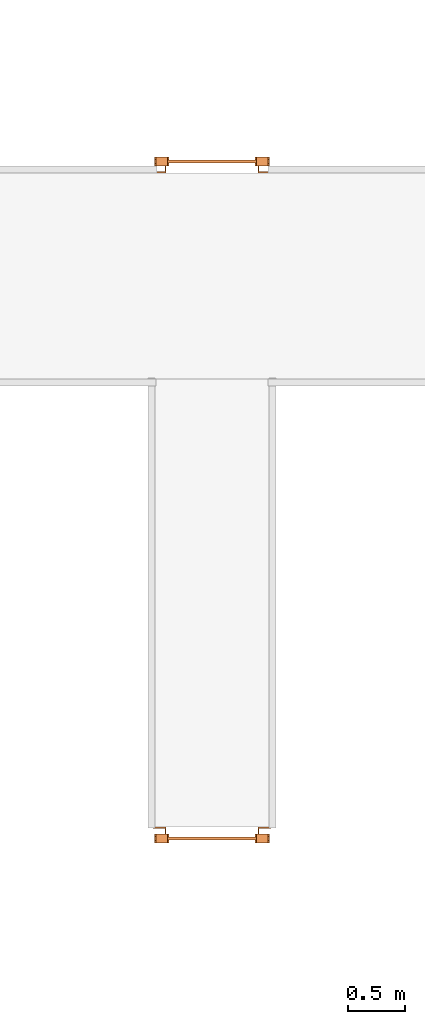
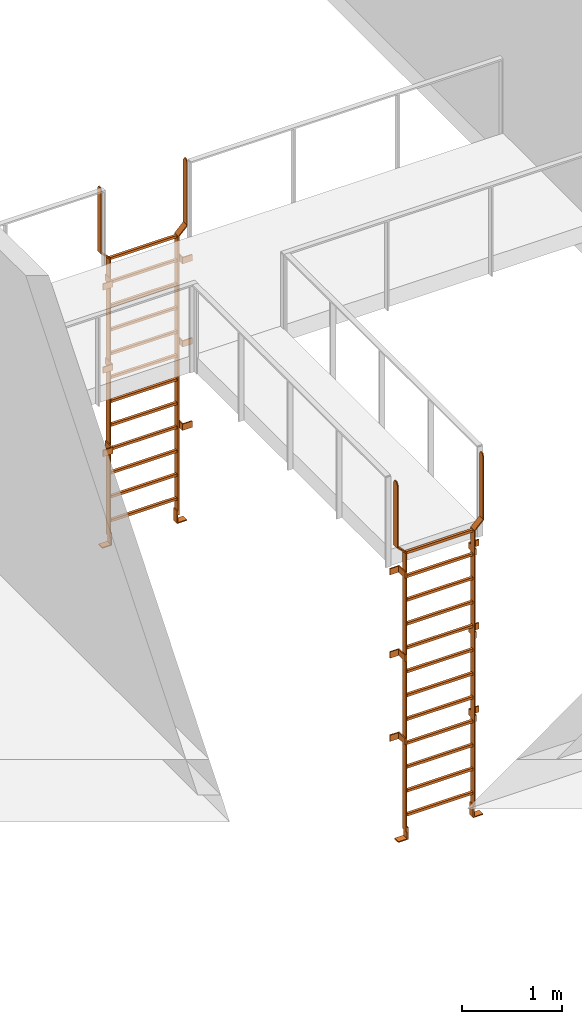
# One storey, part 88 of 89: 2 proxies.
"""IFC2X3 building model written with IfcOpenShell, lengths in millimetres."""

from ifc_helpers import new_model, entity, si_unit, converted_unit, derived_unit, money_unit, direction, frame, origin_with_axes, place, context, subcontext, project, spatial, faceted_brep, type_object, element, save


model = new_model("IFC2X3")

# Units and contexts
model_context = context("Model", 3, precision=0.01, world=origin_with_axes(), true_north=direction((0.0, 1.0)))
body_context = subcontext(model_context, "Body", "Model", "MODEL_VIEW")
ifc_project = project(units=[si_unit("LENGTHUNIT", "METRE", prefix="MILLI"), si_unit("AREAUNIT", "SQUARE_METRE"), si_unit("VOLUMEUNIT", "CUBIC_METRE"), converted_unit("PLANEANGLEUNIT", "DEGREE", entity("IfcPlaneAngleMeasure", 0.0174532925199), si_unit("PLANEANGLEUNIT", "RADIAN"), dimensions=[0, 0, 0, 0, 0, 0, 0]), si_unit("SOLIDANGLEUNIT", "STERADIAN"), money_unit("EUR"), converted_unit("TIMEUNIT", "Year", entity("IfcTimeMeasure", 31556926.0), si_unit("TIMEUNIT", "SECOND"), dimensions=[0, 0, 1, 0, 0, 0, 0]), si_unit("MASSUNIT", "GRAM", prefix="KILO"), si_unit("THERMODYNAMICTEMPERATUREUNIT", "DEGREE_CELSIUS"), si_unit("LUMINOUSINTENSITYUNIT", "LUMEN"), si_unit("ENERGYUNIT", "JOULE", prefix="MEGA"), derived_unit("THERMALCONDUCTANCEUNIT", [(si_unit("POWERUNIT", "WATT"), 1), (si_unit("LENGTHUNIT", "METRE"), -1), (si_unit("THERMODYNAMICTEMPERATUREUNIT", "KELVIN"), -1)]), derived_unit("SPECIFICHEATCAPACITYUNIT", [(si_unit("ENERGYUNIT", "JOULE"), 1), (si_unit("MASSUNIT", "GRAM", prefix="KILO"), -1), (si_unit("THERMODYNAMICTEMPERATUREUNIT", "KELVIN"), -1)]), derived_unit("MASSDENSITYUNIT", [(si_unit("MASSUNIT", "GRAM", prefix="KILO"), 1), (si_unit("VOLUMEUNIT", "CUBIC_METRE"), -1)])], contexts=[model_context])

# Site, building, storey
site_placement = place(None, origin_with_axes())
site = spatial("IfcSite", under=ifc_project, at=site_placement, Name="Puškini 31, Narva", CompositionType="ELEMENT")
building_placement = place(site_placement, origin_with_axes())
building = spatial("IfcBuilding", under=site, at=building_placement, Name="Narva Riigigümnaasium", CompositionType="ELEMENT")
storey_placement = place(building_placement, frame((0.0, 0.0, -3300.0), z_axis=(0.0, 0.0, 1.0), x_axis=(1.0, 0.0, 0.0)))
storey = spatial("IfcBuildingStorey", under=building, at=storey_placement, Name="1.korrus -3.3", CompositionType="ELEMENT", Elevation=-3300.0)

# Proxies
building_element_proxy_type = type_object("IfcBuildingElementProxyType", Name="Vertical Ladder 23", PredefinedType="NOTDEFINED")
proxy_1_placement = place(storey_placement, frame((41100.0043274, 209498.160666, -3500.0), z_axis=(0.0, 0.0, 1.0), x_axis=(1.0, 0.0, 0.0)))
element("IfcBuildingElementProxy", 1, at=proxy_1_placement, inside=storey, type_object=building_element_proxy_type, Name="Redel", context=body_context, shape_type="Brep", body=[
    faceted_brep([(-488.9, -61.9, 12.7), (-488.9, -61.9, 0.0), (-488.9, -138.1, 0.0), (-488.9, -138.1, 12.7), (-387.3, -61.9, 12.7), (-387.3, -61.9, 152.4), (-374.6, -61.9, 152.4), (-374.6, -61.9, 0.0), (-374.6, -138.1, 0.0), (-374.6, -138.1, 152.4), (-387.3, -138.1, 152.4), (-387.3, -138.1, 12.7)], [[[0, 1, 2, 3]], [[0, 4, 5, 6, 7, 1]], [[1, 7, 8, 2]], [[3, 2, 8, 9, 10, 11]], [[4, 0, 3, 11]], [[5, 4, 11, 10]], [[6, 5, 10, 9]], [[7, 6, 9, 8]]]),
    faceted_brep([(488.9, -61.9, 12.7), (488.9, -138.1, 12.7), (488.9, -138.1, 0.0), (488.9, -61.9, 0.0), (387.3, -61.9, 12.7), (387.3, -138.1, 12.7), (387.3, -138.1, 152.4), (374.6, -138.1, 152.4), (374.6, -138.1, 0.0), (374.6, -61.9, 0.0), (374.6, -61.9, 152.4), (387.3, -61.9, 152.4)], [[[0, 1, 2, 3]], [[4, 5, 1, 0]], [[1, 5, 6, 7, 8, 2]], [[3, 2, 8, 9]], [[0, 3, 9, 10, 11, 4]], [[11, 6, 5, 4]], [[10, 7, 6, 11]], [[9, 8, 7, 10]]]),
    faceted_brep([(-412.7, -12.7, 1167.73333333), (-412.7, -138.1, 1167.73333333), (-412.7, -138.1, 1243.93333333), (-412.7, -12.7, 1243.93333333), (-514.3, -12.7, 1167.73333333), (-514.3, 0.0, 1167.73333333), (-400.0, 0.0, 1167.73333333), (-400.0, -138.1, 1167.73333333), (-400.0, -138.1, 1243.93333333), (-400.0, 0.0, 1243.93333333), (-514.3, 0.0, 1243.93333333), (-514.3, -12.7, 1243.93333333)], [[[0, 1, 2, 3]], [[0, 4, 5, 6, 7, 1]], [[1, 7, 8, 2]], [[3, 2, 8, 9, 10, 11]], [[4, 0, 3, 11]], [[5, 4, 11, 10]], [[6, 5, 10, 9]], [[7, 6, 9, 8]]]),
    faceted_brep([(412.7, -12.7, 1167.73333333), (412.7, -12.7, 1243.93333333), (412.7, -138.1, 1243.93333333), (412.7, -138.1, 1167.73333333), (514.3, -12.7, 1167.73333333), (514.3, -12.7, 1243.93333333), (514.3, 0.0, 1243.93333333), (400.0, 0.0, 1243.93333333), (400.0, -138.1, 1243.93333333), (400.0, -138.1, 1167.73333333), (400.0, 0.0, 1167.73333333), (514.3, 0.0, 1167.73333333)], [[[0, 1, 2, 3]], [[4, 5, 1, 0]], [[1, 5, 6, 7, 8, 2]], [[3, 2, 8, 9]], [[0, 3, 9, 10, 11, 4]], [[11, 6, 5, 4]], [[10, 7, 6, 11]], [[9, 8, 7, 10]]]),
    faceted_brep([(-412.7, -12.7, 2183.06666667), (-412.7, -138.1, 2183.06666667), (-412.7, -138.1, 2259.26666667), (-412.7, -12.7, 2259.26666667), (-514.3, -12.7, 2183.06666667), (-514.3, 0.0, 2183.06666667), (-400.0, 0.0, 2183.06666667), (-400.0, -138.1, 2183.06666667), (-400.0, -138.1, 2259.26666667), (-400.0, 0.0, 2259.26666667), (-514.3, 0.0, 2259.26666667), (-514.3, -12.7, 2259.26666667)], [[[0, 1, 2, 3]], [[0, 4, 5, 6, 7, 1]], [[1, 7, 8, 2]], [[3, 2, 8, 9, 10, 11]], [[4, 0, 3, 11]], [[5, 4, 11, 10]], [[6, 5, 10, 9]], [[7, 6, 9, 8]]]),
    faceted_brep([(412.7, -12.7, 2183.06666667), (412.7, -12.7, 2259.26666667), (412.7, -138.1, 2259.26666667), (412.7, -138.1, 2183.06666667), (514.3, -12.7, 2183.06666667), (514.3, -12.7, 2259.26666667), (514.3, 0.0, 2259.26666667), (400.0, 0.0, 2259.26666667), (400.0, -138.1, 2259.26666667), (400.0, -138.1, 2183.06666667), (400.0, 0.0, 2183.06666667), (514.3, 0.0, 2183.06666667)], [[[0, 1, 2, 3]], [[4, 5, 1, 0]], [[1, 5, 6, 7, 8, 2]], [[3, 2, 8, 9]], [[0, 3, 9, 10, 11, 4]], [[11, 6, 5, 4]], [[10, 7, 6, 11]], [[9, 8, 7, 10]]]),
    faceted_brep([(-412.7, -12.7, 3198.4), (-412.7, -138.1, 3198.4), (-412.7, -138.1, 3274.6), (-412.7, -12.7, 3274.6), (-514.3, -12.7, 3198.4), (-514.3, 0.0, 3198.4), (-400.0, 0.0, 3198.4), (-400.0, -138.1, 3198.4), (-400.0, -138.1, 3274.6), (-400.0, 0.0, 3274.6), (-514.3, 0.0, 3274.6), (-514.3, -12.7, 3274.6)], [[[0, 1, 2, 3]], [[0, 4, 5, 6, 7, 1]], [[1, 7, 8, 2]], [[3, 2, 8, 9, 10, 11]], [[4, 0, 3, 11]], [[5, 4, 11, 10]], [[6, 5, 10, 9]], [[7, 6, 9, 8]]]),
    faceted_brep([(412.7, -12.7, 3198.4), (412.7, -12.7, 3274.6), (412.7, -138.1, 3274.6), (412.7, -138.1, 3198.4), (514.3, -12.7, 3198.4), (514.3, -12.7, 3274.6), (514.3, 0.0, 3274.6), (400.0, 0.0, 3274.6), (400.0, -138.1, 3274.6), (400.0, -138.1, 3198.4), (400.0, 0.0, 3198.4), (514.3, 0.0, 3198.4)], [[[0, 1, 2, 3]], [[4, 5, 1, 0]], [[1, 5, 6, 7, 8, 2]], [[3, 2, 8, 9]], [[0, 3, 9, 10, 11, 4]], [[11, 6, 5, 4]], [[10, 7, 6, 11]], [[9, 8, 7, 10]]]),
    faceted_brep([(-387.3, -138.1, 101.6), (-387.3, -61.9, 101.6), (-387.3, -61.9, 3500.0), (-387.3, -138.1, 3500.0), (-400.0, -138.1, 101.6), (-400.0, -61.9, 101.6), (-400.0, -61.9, 3494.73948776), (-501.6, -61.9, 3596.33948776), (-501.6, -61.9, 4361.9), (-488.9, -61.9, 4361.9), (-488.9, -61.9, 3601.6), (-488.9, -138.1, 3601.6), (-488.9, -138.1, 4361.9), (-501.6, -138.1, 4361.9), (-501.6, -138.1, 3596.33948776), (-400.0, -138.1, 3494.73948776)], [[[0, 1, 2, 3]], [[0, 4, 5, 1]], [[1, 5, 6, 7, 8, 9, 10, 2]], [[3, 2, 10, 11]], [[4, 0, 3, 11, 12, 13, 14, 15]], [[5, 4, 15, 6]], [[6, 15, 14, 7]], [[7, 14, 13, 8]], [[12, 9, 8, 13]], [[11, 10, 9, 12]]]),
    faceted_brep([(-501.6, -61.9, 4361.9), (-501.6, -80.95, 4394.89556788), (-488.9, -80.95, 4394.89556788), (-488.9, -61.9, 4361.9), (-501.6, -138.1, 4361.9), (-501.6, -119.05, 4394.89556788), (-488.9, -119.05, 4394.89556788), (-488.9, -138.1, 4361.9)], [[[0, 1, 2, 3]], [[0, 4, 5, 1]], [[1, 5, 6, 2]], [[3, 2, 6, 7]], [[4, 0, 3, 7]], [[5, 4, 7, 6]]]),
    faceted_brep([(387.3, -138.1, 101.6), (387.3, -138.1, 3500.0), (387.3, -61.9, 3500.0), (387.3, -61.9, 101.6), (400.0, -138.1, 101.6), (400.0, -138.1, 3494.73948776), (501.6, -138.1, 3596.33948776), (501.6, -138.1, 4361.9), (488.9, -138.1, 4361.9), (488.9, -138.1, 3601.6), (488.9, -61.9, 3601.6), (488.9, -61.9, 4361.9), (501.6, -61.9, 4361.9), (501.6, -61.9, 3596.33948776), (400.0, -61.9, 3494.73948776), (400.0, -61.9, 101.6)], [[[0, 1, 2, 3]], [[4, 5, 6, 7, 8, 9, 1, 0]], [[1, 9, 10, 2]], [[3, 2, 10, 11, 12, 13, 14, 15]], [[0, 3, 15, 4]], [[15, 14, 5, 4]], [[14, 13, 6, 5]], [[13, 12, 7, 6]], [[8, 7, 12, 11]], [[9, 8, 11, 10]]]),
    faceted_brep([(501.6, -61.9, 4361.9), (488.9, -61.9, 4361.9), (488.9, -80.95, 4394.89556788), (501.6, -80.95, 4394.89556788), (501.6, -138.1, 4361.9), (488.9, -138.1, 4361.9), (488.9, -119.05, 4394.89556788), (501.6, -119.05, 4394.89556788)], [[[0, 1, 2, 3]], [[4, 5, 1, 0]], [[1, 5, 6, 2]], [[3, 2, 6, 7]], [[0, 3, 7, 4]], [[7, 6, 5, 4]]]),
    faceted_brep([(387.3, -115.0, 270.0), (-387.3, -115.0, 270.0), (-387.3, -85.0, 270.0), (387.3, -85.0, 270.0), (387.3, -115.0, 300.0), (-387.3, -115.0, 300.0), (-387.3, -85.0, 300.0), (387.3, -85.0, 300.0)], [[[0, 1, 2, 3]], [[1, 0, 4, 5]], [[2, 1, 5, 6]], [[3, 2, 6, 7]], [[0, 3, 7, 4]], [[5, 4, 7, 6]]]),
    faceted_brep([(387.3, -115.0, 560.909090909), (-387.3, -115.0, 560.909090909), (-387.3, -85.0, 560.909090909), (387.3, -85.0, 560.909090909), (387.3, -115.0, 590.909090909), (-387.3, -115.0, 590.909090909), (-387.3, -85.0, 590.909090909), (387.3, -85.0, 590.909090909)], [[[0, 1, 2, 3]], [[1, 0, 4, 5]], [[2, 1, 5, 6]], [[3, 2, 6, 7]], [[0, 3, 7, 4]], [[5, 4, 7, 6]]]),
    faceted_brep([(387.3, -115.0, 851.818181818), (-387.3, -115.0, 851.818181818), (-387.3, -85.0, 851.818181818), (387.3, -85.0, 851.818181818), (387.3, -115.0, 881.818181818), (-387.3, -115.0, 881.818181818), (-387.3, -85.0, 881.818181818), (387.3, -85.0, 881.818181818)], [[[0, 1, 2, 3]], [[1, 0, 4, 5]], [[2, 1, 5, 6]], [[3, 2, 6, 7]], [[0, 3, 7, 4]], [[5, 4, 7, 6]]]),
    faceted_brep([(387.3, -115.0, 1142.72727273), (-387.3, -115.0, 1142.72727273), (-387.3, -85.0, 1142.72727273), (387.3, -85.0, 1142.72727273), (387.3, -115.0, 1172.72727273), (-387.3, -115.0, 1172.72727273), (-387.3, -85.0, 1172.72727273), (387.3, -85.0, 1172.72727273)], [[[0, 1, 2, 3]], [[1, 0, 4, 5]], [[2, 1, 5, 6]], [[3, 2, 6, 7]], [[0, 3, 7, 4]], [[5, 4, 7, 6]]]),
    faceted_brep([(387.3, -115.0, 1433.63636364), (-387.3, -115.0, 1433.63636364), (-387.3, -85.0, 1433.63636364), (387.3, -85.0, 1433.63636364), (387.3, -115.0, 1463.63636364), (-387.3, -115.0, 1463.63636364), (-387.3, -85.0, 1463.63636364), (387.3, -85.0, 1463.63636364)], [[[0, 1, 2, 3]], [[1, 0, 4, 5]], [[2, 1, 5, 6]], [[3, 2, 6, 7]], [[0, 3, 7, 4]], [[5, 4, 7, 6]]]),
    faceted_brep([(387.3, -115.0, 1724.54545455), (-387.3, -115.0, 1724.54545455), (-387.3, -85.0, 1724.54545455), (387.3, -85.0, 1724.54545455), (387.3, -115.0, 1754.54545455), (-387.3, -115.0, 1754.54545455), (-387.3, -85.0, 1754.54545455), (387.3, -85.0, 1754.54545455)], [[[0, 1, 2, 3]], [[1, 0, 4, 5]], [[2, 1, 5, 6]], [[3, 2, 6, 7]], [[0, 3, 7, 4]], [[5, 4, 7, 6]]]),
    faceted_brep([(387.3, -115.0, 2015.45454545), (-387.3, -115.0, 2015.45454545), (-387.3, -85.0, 2015.45454545), (387.3, -85.0, 2015.45454545), (387.3, -115.0, 2045.45454545), (-387.3, -115.0, 2045.45454545), (-387.3, -85.0, 2045.45454545), (387.3, -85.0, 2045.45454545)], [[[0, 1, 2, 3]], [[1, 0, 4, 5]], [[2, 1, 5, 6]], [[3, 2, 6, 7]], [[0, 3, 7, 4]], [[5, 4, 7, 6]]]),
    faceted_brep([(387.3, -115.0, 2306.36363636), (-387.3, -115.0, 2306.36363636), (-387.3, -85.0, 2306.36363636), (387.3, -85.0, 2306.36363636), (387.3, -115.0, 2336.36363636), (-387.3, -115.0, 2336.36363636), (-387.3, -85.0, 2336.36363636), (387.3, -85.0, 2336.36363636)], [[[0, 1, 2, 3]], [[1, 0, 4, 5]], [[2, 1, 5, 6]], [[3, 2, 6, 7]], [[0, 3, 7, 4]], [[5, 4, 7, 6]]]),
    faceted_brep([(387.3, -115.0, 2597.27272727), (-387.3, -115.0, 2597.27272727), (-387.3, -85.0, 2597.27272727), (387.3, -85.0, 2597.27272727), (387.3, -115.0, 2627.27272727), (-387.3, -115.0, 2627.27272727), (-387.3, -85.0, 2627.27272727), (387.3, -85.0, 2627.27272727)], [[[0, 1, 2, 3]], [[1, 0, 4, 5]], [[2, 1, 5, 6]], [[3, 2, 6, 7]], [[0, 3, 7, 4]], [[5, 4, 7, 6]]]),
    faceted_brep([(387.3, -115.0, 2888.18181818), (-387.3, -115.0, 2888.18181818), (-387.3, -85.0, 2888.18181818), (387.3, -85.0, 2888.18181818), (387.3, -115.0, 2918.18181818), (-387.3, -115.0, 2918.18181818), (-387.3, -85.0, 2918.18181818), (387.3, -85.0, 2918.18181818)], [[[0, 1, 2, 3]], [[1, 0, 4, 5]], [[2, 1, 5, 6]], [[3, 2, 6, 7]], [[0, 3, 7, 4]], [[5, 4, 7, 6]]]),
    faceted_brep([(387.3, -115.0, 3179.09090909), (-387.3, -115.0, 3179.09090909), (-387.3, -85.0, 3179.09090909), (387.3, -85.0, 3179.09090909), (387.3, -115.0, 3209.09090909), (-387.3, -115.0, 3209.09090909), (-387.3, -85.0, 3209.09090909), (387.3, -85.0, 3209.09090909)], [[[0, 1, 2, 3]], [[1, 0, 4, 5]], [[2, 1, 5, 6]], [[3, 2, 6, 7]], [[0, 3, 7, 4]], [[5, 4, 7, 6]]]),
    faceted_brep([(387.3, -115.0, 3470.0), (-387.3, -115.0, 3470.0), (-387.3, -85.0, 3470.0), (387.3, -85.0, 3470.0), (387.3, -115.0, 3500.0), (-387.3, -115.0, 3500.0), (-387.3, -85.0, 3500.0), (387.3, -85.0, 3500.0)], [[[0, 1, 2, 3]], [[1, 0, 4, 5]], [[2, 1, 5, 6]], [[3, 2, 6, 7]], [[0, 3, 7, 4]], [[5, 4, 7, 6]]]),
])
proxy_2_placement = place(storey_placement, frame((41100.0043274, 215215.002185, -3500.0), z_axis=(0.0, 0.0, 1.0), x_axis=(-1.0, 0.0, 0.0)))
element("IfcBuildingElementProxy", 2, at=proxy_2_placement, inside=storey, type_object=building_element_proxy_type, Name="Redel", context=body_context, shape_type="Brep", body=[
    faceted_brep([(488.9, -61.9, 12.7), (488.9, -138.1, 12.7), (488.9, -138.1, 0.0), (488.9, -61.9, 0.0), (387.3, -61.9, 12.7), (387.3, -138.1, 12.7), (387.3, -138.1, 152.4), (374.6, -138.1, 152.4), (374.6, -138.1, 0.0), (374.6, -61.9, 0.0), (374.6, -61.9, 152.4), (387.3, -61.9, 152.4)], [[[0, 1, 2, 3]], [[4, 5, 1, 0]], [[1, 5, 6, 7, 8, 2]], [[3, 2, 8, 9]], [[0, 3, 9, 10, 11, 4]], [[11, 6, 5, 4]], [[10, 7, 6, 11]], [[9, 8, 7, 10]]]),
    faceted_brep([(-488.9, -61.9, 12.7), (-488.9, -61.9, 0.0), (-488.9, -138.1, 0.0), (-488.9, -138.1, 12.7), (-387.3, -61.9, 12.7), (-387.3, -61.9, 152.4), (-374.6, -61.9, 152.4), (-374.6, -61.9, 0.0), (-374.6, -138.1, 0.0), (-374.6, -138.1, 152.4), (-387.3, -138.1, 152.4), (-387.3, -138.1, 12.7)], [[[0, 1, 2, 3]], [[0, 4, 5, 6, 7, 1]], [[1, 7, 8, 2]], [[3, 2, 8, 9, 10, 11]], [[4, 0, 3, 11]], [[5, 4, 11, 10]], [[6, 5, 10, 9]], [[7, 6, 9, 8]]]),
    faceted_brep([(412.7, -12.7, 1167.73333333), (412.7, -12.7, 1243.93333333), (412.7, -138.1, 1243.93333333), (412.7, -138.1, 1167.73333333), (514.3, -12.7, 1167.73333333), (514.3, -12.7, 1243.93333333), (514.3, 0.0, 1243.93333333), (400.0, 0.0, 1243.93333333), (400.0, -138.1, 1243.93333333), (400.0, -138.1, 1167.73333333), (400.0, 0.0, 1167.73333333), (514.3, 0.0, 1167.73333333)], [[[0, 1, 2, 3]], [[4, 5, 1, 0]], [[1, 5, 6, 7, 8, 2]], [[3, 2, 8, 9]], [[0, 3, 9, 10, 11, 4]], [[11, 6, 5, 4]], [[10, 7, 6, 11]], [[9, 8, 7, 10]]]),
    faceted_brep([(-412.7, -12.7, 1167.73333333), (-412.7, -138.1, 1167.73333333), (-412.7, -138.1, 1243.93333333), (-412.7, -12.7, 1243.93333333), (-514.3, -12.7, 1167.73333333), (-514.3, 0.0, 1167.73333333), (-400.0, 0.0, 1167.73333333), (-400.0, -138.1, 1167.73333333), (-400.0, -138.1, 1243.93333333), (-400.0, 0.0, 1243.93333333), (-514.3, 0.0, 1243.93333333), (-514.3, -12.7, 1243.93333333)], [[[0, 1, 2, 3]], [[0, 4, 5, 6, 7, 1]], [[1, 7, 8, 2]], [[3, 2, 8, 9, 10, 11]], [[4, 0, 3, 11]], [[5, 4, 11, 10]], [[6, 5, 10, 9]], [[7, 6, 9, 8]]]),
    faceted_brep([(412.7, -12.7, 2183.06666667), (412.7, -12.7, 2259.26666667), (412.7, -138.1, 2259.26666667), (412.7, -138.1, 2183.06666667), (514.3, -12.7, 2183.06666667), (514.3, -12.7, 2259.26666667), (514.3, 0.0, 2259.26666667), (400.0, 0.0, 2259.26666667), (400.0, -138.1, 2259.26666667), (400.0, -138.1, 2183.06666667), (400.0, 0.0, 2183.06666667), (514.3, 0.0, 2183.06666667)], [[[0, 1, 2, 3]], [[4, 5, 1, 0]], [[1, 5, 6, 7, 8, 2]], [[3, 2, 8, 9]], [[0, 3, 9, 10, 11, 4]], [[11, 6, 5, 4]], [[10, 7, 6, 11]], [[9, 8, 7, 10]]]),
    faceted_brep([(-412.7, -12.7, 2183.06666667), (-412.7, -138.1, 2183.06666667), (-412.7, -138.1, 2259.26666667), (-412.7, -12.7, 2259.26666667), (-514.3, -12.7, 2183.06666667), (-514.3, 0.0, 2183.06666667), (-400.0, 0.0, 2183.06666667), (-400.0, -138.1, 2183.06666667), (-400.0, -138.1, 2259.26666667), (-400.0, 0.0, 2259.26666667), (-514.3, 0.0, 2259.26666667), (-514.3, -12.7, 2259.26666667)], [[[0, 1, 2, 3]], [[0, 4, 5, 6, 7, 1]], [[1, 7, 8, 2]], [[3, 2, 8, 9, 10, 11]], [[4, 0, 3, 11]], [[5, 4, 11, 10]], [[6, 5, 10, 9]], [[7, 6, 9, 8]]]),
    faceted_brep([(412.7, -12.7, 3198.4), (412.7, -12.7, 3274.6), (412.7, -138.1, 3274.6), (412.7, -138.1, 3198.4), (514.3, -12.7, 3198.4), (514.3, -12.7, 3274.6), (514.3, 0.0, 3274.6), (400.0, 0.0, 3274.6), (400.0, -138.1, 3274.6), (400.0, -138.1, 3198.4), (400.0, 0.0, 3198.4), (514.3, 0.0, 3198.4)], [[[0, 1, 2, 3]], [[4, 5, 1, 0]], [[1, 5, 6, 7, 8, 2]], [[3, 2, 8, 9]], [[0, 3, 9, 10, 11, 4]], [[11, 6, 5, 4]], [[10, 7, 6, 11]], [[9, 8, 7, 10]]]),
    faceted_brep([(-412.7, -12.7, 3198.4), (-412.7, -138.1, 3198.4), (-412.7, -138.1, 3274.6), (-412.7, -12.7, 3274.6), (-514.3, -12.7, 3198.4), (-514.3, 0.0, 3198.4), (-400.0, 0.0, 3198.4), (-400.0, -138.1, 3198.4), (-400.0, -138.1, 3274.6), (-400.0, 0.0, 3274.6), (-514.3, 0.0, 3274.6), (-514.3, -12.7, 3274.6)], [[[0, 1, 2, 3]], [[0, 4, 5, 6, 7, 1]], [[1, 7, 8, 2]], [[3, 2, 8, 9, 10, 11]], [[4, 0, 3, 11]], [[5, 4, 11, 10]], [[6, 5, 10, 9]], [[7, 6, 9, 8]]]),
    faceted_brep([(387.3, -138.1, 101.6), (387.3, -138.1, 3500.0), (387.3, -61.9, 3500.0), (387.3, -61.9, 101.6), (400.0, -138.1, 101.6), (400.0, -138.1, 3494.73948776), (501.6, -138.1, 3596.33948776), (501.6, -138.1, 4361.9), (488.9, -138.1, 4361.9), (488.9, -138.1, 3601.6), (488.9, -61.9, 3601.6), (488.9, -61.9, 4361.9), (501.6, -61.9, 4361.9), (501.6, -61.9, 3596.33948776), (400.0, -61.9, 3494.73948776), (400.0, -61.9, 101.6)], [[[0, 1, 2, 3]], [[4, 5, 6, 7, 8, 9, 1, 0]], [[1, 9, 10, 2]], [[3, 2, 10, 11, 12, 13, 14, 15]], [[0, 3, 15, 4]], [[15, 14, 5, 4]], [[14, 13, 6, 5]], [[13, 12, 7, 6]], [[8, 7, 12, 11]], [[9, 8, 11, 10]]]),
    faceted_brep([(501.6, -61.9, 4361.9), (488.9, -61.9, 4361.9), (488.9, -80.95, 4394.89556788), (501.6, -80.95, 4394.89556788), (501.6, -138.1, 4361.9), (488.9, -138.1, 4361.9), (488.9, -119.05, 4394.89556788), (501.6, -119.05, 4394.89556788)], [[[0, 1, 2, 3]], [[4, 5, 1, 0]], [[1, 5, 6, 2]], [[3, 2, 6, 7]], [[0, 3, 7, 4]], [[7, 6, 5, 4]]]),
    faceted_brep([(-387.3, -138.1, 101.6), (-387.3, -61.9, 101.6), (-387.3, -61.9, 3500.0), (-387.3, -138.1, 3500.0), (-400.0, -138.1, 101.6), (-400.0, -61.9, 101.6), (-400.0, -61.9, 3494.73948776), (-501.6, -61.9, 3596.33948776), (-501.6, -61.9, 4361.9), (-488.9, -61.9, 4361.9), (-488.9, -61.9, 3601.6), (-488.9, -138.1, 3601.6), (-488.9, -138.1, 4361.9), (-501.6, -138.1, 4361.9), (-501.6, -138.1, 3596.33948776), (-400.0, -138.1, 3494.73948776)], [[[0, 1, 2, 3]], [[0, 4, 5, 1]], [[1, 5, 6, 7, 8, 9, 10, 2]], [[3, 2, 10, 11]], [[4, 0, 3, 11, 12, 13, 14, 15]], [[5, 4, 15, 6]], [[6, 15, 14, 7]], [[7, 14, 13, 8]], [[12, 9, 8, 13]], [[11, 10, 9, 12]]]),
    faceted_brep([(-501.6, -61.9, 4361.9), (-501.6, -80.95, 4394.89556788), (-488.9, -80.95, 4394.89556788), (-488.9, -61.9, 4361.9), (-501.6, -138.1, 4361.9), (-501.6, -119.05, 4394.89556788), (-488.9, -119.05, 4394.89556788), (-488.9, -138.1, 4361.9)], [[[0, 1, 2, 3]], [[0, 4, 5, 1]], [[1, 5, 6, 2]], [[3, 2, 6, 7]], [[4, 0, 3, 7]], [[5, 4, 7, 6]]]),
    faceted_brep([(-387.3, -115.0, 270.0), (-387.3, -85.0, 270.0), (387.3, -85.0, 270.0), (387.3, -115.0, 270.0), (-387.3, -115.0, 300.0), (-387.3, -85.0, 300.0), (387.3, -85.0, 300.0), (387.3, -115.0, 300.0)], [[[0, 1, 2, 3]], [[0, 4, 5, 1]], [[1, 5, 6, 2]], [[2, 6, 7, 3]], [[3, 7, 4, 0]], [[7, 6, 5, 4]]]),
    faceted_brep([(-387.3, -115.0, 560.909090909), (-387.3, -85.0, 560.909090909), (387.3, -85.0, 560.909090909), (387.3, -115.0, 560.909090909), (-387.3, -115.0, 590.909090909), (-387.3, -85.0, 590.909090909), (387.3, -85.0, 590.909090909), (387.3, -115.0, 590.909090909)], [[[0, 1, 2, 3]], [[0, 4, 5, 1]], [[1, 5, 6, 2]], [[2, 6, 7, 3]], [[3, 7, 4, 0]], [[7, 6, 5, 4]]]),
    faceted_brep([(-387.3, -115.0, 851.818181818), (-387.3, -85.0, 851.818181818), (387.3, -85.0, 851.818181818), (387.3, -115.0, 851.818181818), (-387.3, -115.0, 881.818181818), (-387.3, -85.0, 881.818181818), (387.3, -85.0, 881.818181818), (387.3, -115.0, 881.818181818)], [[[0, 1, 2, 3]], [[0, 4, 5, 1]], [[1, 5, 6, 2]], [[2, 6, 7, 3]], [[3, 7, 4, 0]], [[7, 6, 5, 4]]]),
    faceted_brep([(-387.3, -115.0, 1142.72727273), (-387.3, -85.0, 1142.72727273), (387.3, -85.0, 1142.72727273), (387.3, -115.0, 1142.72727273), (-387.3, -115.0, 1172.72727273), (-387.3, -85.0, 1172.72727273), (387.3, -85.0, 1172.72727273), (387.3, -115.0, 1172.72727273)], [[[0, 1, 2, 3]], [[0, 4, 5, 1]], [[1, 5, 6, 2]], [[2, 6, 7, 3]], [[3, 7, 4, 0]], [[7, 6, 5, 4]]]),
    faceted_brep([(-387.3, -115.0, 1433.63636364), (-387.3, -85.0, 1433.63636364), (387.3, -85.0, 1433.63636364), (387.3, -115.0, 1433.63636364), (-387.3, -115.0, 1463.63636364), (-387.3, -85.0, 1463.63636364), (387.3, -85.0, 1463.63636364), (387.3, -115.0, 1463.63636364)], [[[0, 1, 2, 3]], [[0, 4, 5, 1]], [[1, 5, 6, 2]], [[2, 6, 7, 3]], [[3, 7, 4, 0]], [[7, 6, 5, 4]]]),
    faceted_brep([(-387.3, -115.0, 1724.54545455), (-387.3, -85.0, 1724.54545455), (387.3, -85.0, 1724.54545455), (387.3, -115.0, 1724.54545455), (-387.3, -115.0, 1754.54545455), (-387.3, -85.0, 1754.54545455), (387.3, -85.0, 1754.54545455), (387.3, -115.0, 1754.54545455)], [[[0, 1, 2, 3]], [[0, 4, 5, 1]], [[1, 5, 6, 2]], [[2, 6, 7, 3]], [[3, 7, 4, 0]], [[7, 6, 5, 4]]]),
    faceted_brep([(-387.3, -115.0, 2015.45454545), (-387.3, -85.0, 2015.45454545), (387.3, -85.0, 2015.45454545), (387.3, -115.0, 2015.45454545), (-387.3, -115.0, 2045.45454545), (-387.3, -85.0, 2045.45454545), (387.3, -85.0, 2045.45454545), (387.3, -115.0, 2045.45454545)], [[[0, 1, 2, 3]], [[0, 4, 5, 1]], [[1, 5, 6, 2]], [[2, 6, 7, 3]], [[3, 7, 4, 0]], [[7, 6, 5, 4]]]),
    faceted_brep([(-387.3, -115.0, 2306.36363636), (-387.3, -85.0, 2306.36363636), (387.3, -85.0, 2306.36363636), (387.3, -115.0, 2306.36363636), (-387.3, -115.0, 2336.36363636), (-387.3, -85.0, 2336.36363636), (387.3, -85.0, 2336.36363636), (387.3, -115.0, 2336.36363636)], [[[0, 1, 2, 3]], [[0, 4, 5, 1]], [[1, 5, 6, 2]], [[2, 6, 7, 3]], [[3, 7, 4, 0]], [[7, 6, 5, 4]]]),
    faceted_brep([(-387.3, -115.0, 2597.27272727), (-387.3, -85.0, 2597.27272727), (387.3, -85.0, 2597.27272727), (387.3, -115.0, 2597.27272727), (-387.3, -115.0, 2627.27272727), (-387.3, -85.0, 2627.27272727), (387.3, -85.0, 2627.27272727), (387.3, -115.0, 2627.27272727)], [[[0, 1, 2, 3]], [[0, 4, 5, 1]], [[1, 5, 6, 2]], [[2, 6, 7, 3]], [[3, 7, 4, 0]], [[7, 6, 5, 4]]]),
    faceted_brep([(-387.3, -115.0, 2888.18181818), (-387.3, -85.0, 2888.18181818), (387.3, -85.0, 2888.18181818), (387.3, -115.0, 2888.18181818), (-387.3, -115.0, 2918.18181818), (-387.3, -85.0, 2918.18181818), (387.3, -85.0, 2918.18181818), (387.3, -115.0, 2918.18181818)], [[[0, 1, 2, 3]], [[0, 4, 5, 1]], [[1, 5, 6, 2]], [[2, 6, 7, 3]], [[3, 7, 4, 0]], [[7, 6, 5, 4]]]),
    faceted_brep([(-387.3, -115.0, 3179.09090909), (-387.3, -85.0, 3179.09090909), (387.3, -85.0, 3179.09090909), (387.3, -115.0, 3179.09090909), (-387.3, -115.0, 3209.09090909), (-387.3, -85.0, 3209.09090909), (387.3, -85.0, 3209.09090909), (387.3, -115.0, 3209.09090909)], [[[0, 1, 2, 3]], [[0, 4, 5, 1]], [[1, 5, 6, 2]], [[2, 6, 7, 3]], [[3, 7, 4, 0]], [[7, 6, 5, 4]]]),
    faceted_brep([(-387.3, -115.0, 3470.0), (-387.3, -85.0, 3470.0), (387.3, -85.0, 3470.0), (387.3, -115.0, 3470.0), (-387.3, -115.0, 3500.0), (-387.3, -85.0, 3500.0), (387.3, -85.0, 3500.0), (387.3, -115.0, 3500.0)], [[[0, 1, 2, 3]], [[0, 4, 5, 1]], [[1, 5, 6, 2]], [[2, 6, 7, 3]], [[3, 7, 4, 0]], [[7, 6, 5, 4]]]),
])

save(model, "model.ifc")
